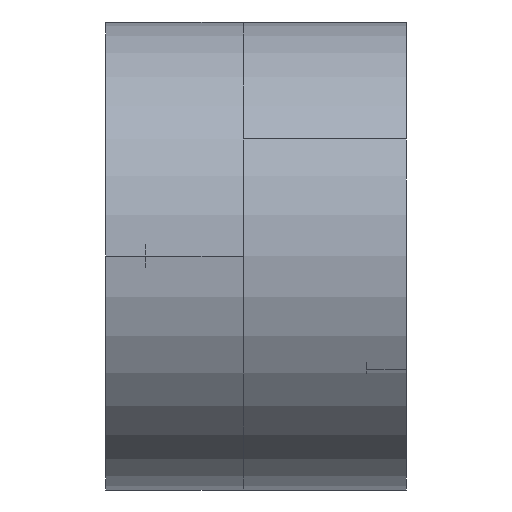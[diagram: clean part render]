
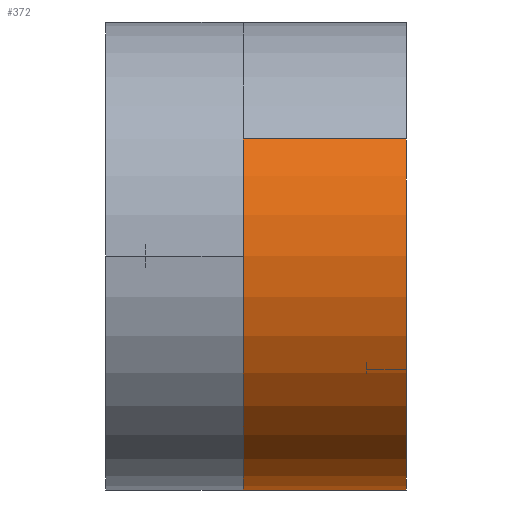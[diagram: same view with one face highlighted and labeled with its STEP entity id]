
A CAD part, left-side view. The second image highlights one B-rep face of the part: STEP entity #372.
In plain terms, the highlighted cylindrical face has radius 27.25 mm (diameter 54.5 mm), a partial arc.
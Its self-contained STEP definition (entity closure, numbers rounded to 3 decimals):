
#372=ADVANCED_FACE('',(#817),#818,.T.);
#817=FACE_OUTER_BOUND('',#1328,.T.);
#818=CYLINDRICAL_SURFACE('',#1329,27.25);
#1328=EDGE_LOOP('',(#2865,#2866,#2867,#2868));
#1329=AXIS2_PLACEMENT_3D('',#2869,#2870,#2871);
#2865=ORIENTED_EDGE('',*,*,#3148,.T.);
#2866=ORIENTED_EDGE('',*,*,#3330,.F.);
#2867=ORIENTED_EDGE('',*,*,#3150,.T.);
#2868=ORIENTED_EDGE('',*,*,#3324,.T.);
#2869=CARTESIAN_POINT('',(0.0,-9.5,0.0));
#2870=DIRECTION('',(0.0,-1.0,0.0));
#2871=DIRECTION('',(0.866,0.0,-0.5));
#3148=EDGE_CURVE('',#3797,#3798,#3799,.T.);
#3150=EDGE_CURVE('',#3802,#3800,#3803,.T.);
#3324=EDGE_CURVE('',#3800,#3797,#4097,.T.);
#3330=EDGE_CURVE('',#3802,#3798,#4103,.T.);
#3797=VERTEX_POINT('',#4832);
#3798=VERTEX_POINT('',#4833);
#3799=LINE('',#4834,#4835);
#3800=VERTEX_POINT('',#4836);
#3802=VERTEX_POINT('',#4838);
#3803=LINE('',#4839,#4840);
#4097=CIRCLE('',#5434,27.25);
#4103=CIRCLE('',#5440,27.25);
#4832=CARTESIAN_POINT('',(23.599,0.0,-13.625));
#4833=CARTESIAN_POINT('',(23.599,-19.0,-13.625));
#4834=CARTESIAN_POINT('',(23.599,-9.5,-13.625));
#4835=VECTOR('',#6019,1.0);
#4836=CARTESIAN_POINT('',(-23.599,0.0,13.625));
#4838=CARTESIAN_POINT('',(-23.599,-19.0,13.625));
#4839=CARTESIAN_POINT('',(-23.599,-9.5,13.625));
#4840=VECTOR('',#6023,1.0);
#5434=AXIS2_PLACEMENT_3D('',#6303,#6304,#6305);
#5440=AXIS2_PLACEMENT_3D('',#6321,#6322,#6323);
#6019=DIRECTION('',(0.0,-1.0,0.0));
#6023=DIRECTION('',(0.0,1.0,0.0));
#6303=CARTESIAN_POINT('',(0.0,0.0,0.0));
#6304=DIRECTION('',(0.0,-1.0,0.0));
#6305=DIRECTION('',(0.866,0.0,-0.5));
#6321=CARTESIAN_POINT('',(0.0,-19.0,0.0));
#6322=DIRECTION('',(0.0,-1.0,0.0));
#6323=DIRECTION('',(0.866,0.0,-0.5));
